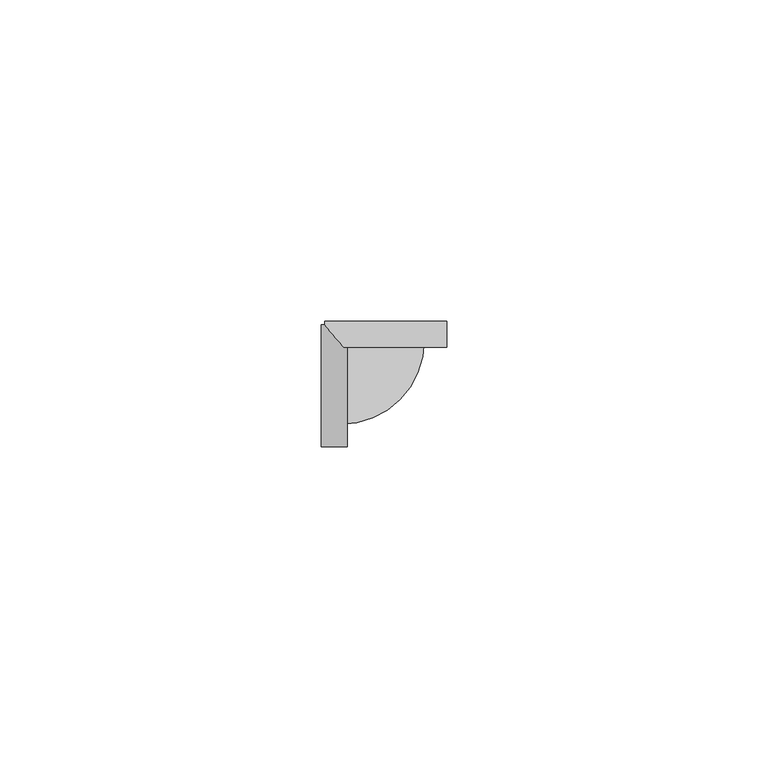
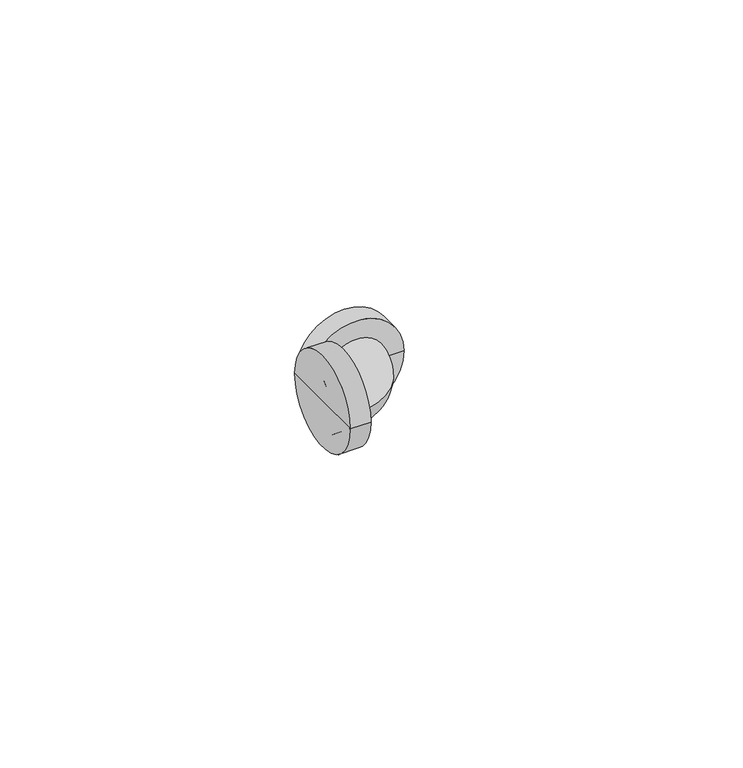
"""IFC4 building model written with IfcOpenShell, lengths in millimetres: pipe fitting geometry, KAN-therm Push kolano mosiężne : KAN-therm Push kolano mosiężne."""

from ifc_helpers import new_model, si_unit, point, frame, origin, place, context, project, spatial, circle_curve, ellipse_curve, trimmed, source, transform, mapped, element, save
from ifc_brep_helpers import plane_surface, cylinder_surface, revolved_surface, advanced_brep


def pipe_fitting_e0515772(model_context):
    return source(origin(), model_context, "Body", "AdvancedBrep", [
        advanced_brep(
        [(0.0, 6.0, 0.0), (-9.5, 6.0, 0.0), (9.5, 6.0, 0.0), (9.5, 10.0, 0.0), (-9.5, 10.0, 0.0), (0.0, 10.0, 0.0)],
        [
            (0, 1),
            (1, 2, circle_curve(frame((0.0, 6.0, 0.0), z_axis=(0.0, -1.0, 0.0), x_axis=(-1.0, 0.0, 0.0)), 9.5)),
            (2, 0),
            (2, 1, circle_curve(frame((0.0, 6.0, 0.0), z_axis=(0.0, -1.0, 0.0), x_axis=(-1.0, 0.0, 0.0)), 9.5)),
            (3, 4, circle_curve(frame((0.0, 10.0, 0.0), z_axis=(0.0, 1.0, 0.0), x_axis=(-1.0, 0.0, 0.0)), 9.5)),
            (4, 5),
            (5, 3),
            (4, 3, circle_curve(frame((0.0, 10.0, 0.0), z_axis=(0.0, 1.0, 0.0), x_axis=(-1.0, 0.0, 0.0)), 9.5)),
            (1, 4),
            (3, 2),
        ],
        [
            plane_surface(frame((0.0, 6.0, 0.0), z_axis=(0.0, -1.0, 0.0), x_axis=(-1.0, 0.0, 0.0))),
            plane_surface(frame((0.0, 10.0, 0.0), z_axis=(0.0, 1.0, 0.0), x_axis=(-1.0, 0.0, 0.0))),
            cylinder_surface(frame((0.0, 1987.0, 0.0), z_axis=(0.0, -1.0, 0.0), x_axis=(-1.0, 0.0, 0.0)), 9.5),
        ],
        [
            (0, [[1, 2, 3]]),
            (0, [[-3, 4, -1]]),
            (1, [[5, 6, 7]]),
            (1, [[8, -7, -6]]),
            (2, [[-2, 9, -5, 10]]),
            (2, [[-4, -10, -8, -9]]),
        ],
    ),
        advanced_brep(
        [(-10.0, -9.5, 0.0), (-10.0, 9.5, 0.0), (-6.0, 9.5, 0.0), (-6.0, -9.5, 0.0), (-10.0, 0.0, 0.0), (-6.0, 0.0, 0.0)],
        [
            (0, 1, circle_curve(frame((-10.0, 0.0, 0.0), z_axis=(1.0, 0.0, 0.0), x_axis=(0.0, 1.0, 0.0)), 9.5)),
            (1, 2),
            (2, 3, circle_curve(frame((-6.0, 0.0, 0.0), z_axis=(-1.0, 0.0, 0.0), x_axis=(0.0, 1.0, 0.0)), 9.5)),
            (3, 0),
            (1, 0, circle_curve(frame((-10.0, 0.0, 0.0), z_axis=(1.0, 0.0, 0.0), x_axis=(0.0, 1.0, 0.0)), 9.5)),
            (3, 2, circle_curve(frame((-6.0, 0.0, 0.0), z_axis=(-1.0, 0.0, 0.0), x_axis=(0.0, 1.0, 0.0)), 9.5)),
            (4, 1),
            (0, 4),
            (2, 5),
            (5, 3),
        ],
        [
            cylinder_surface(frame((2000.0, 0.0, 0.0), z_axis=(-1.0, 0.0, 0.0), x_axis=(0.0, 1.0, 0.0)), 9.5),
            plane_surface(frame((-10.0, 0.0, 0.0), z_axis=(-1.0, 0.0, 0.0), x_axis=(0.0, 1.0, 0.0))),
            plane_surface(frame((-6.0, 0.0, 0.0), z_axis=(1.0, 0.0, 0.0), x_axis=(0.0, 1.0, 0.0))),
        ],
        [
            (0, [[1, 2, 3, 4]]),
            (0, [[5, -4, 6, -2]]),
            (1, [[7, -1, 8]]),
            (1, [[-8, -5, -7]]),
            (2, [[-3, 9, 10]]),
            (2, [[-6, -10, -9]]),
        ],
    ),
        advanced_brep(
        [(-6.0, 10.0, 0.0), (6.0, 10.0, 0.0), (-10.0, 6.0, 0.0), (-10.0, -6.0, 0.0), (-7.0, -6.0, 0.0), (-7.0, 6.0, 0.0), (-6.0, 7.0, 0.0), (6.0, 7.0, 0.0)],
        [
            (0, 1, circle_curve(frame((0.0, 10.0, 0.0), z_axis=(0.0, 1.0, 0.0), x_axis=(1.0, 0.0, 0.0)), 6.0)),
            (1, 0, circle_curve(frame((0.0, 10.0, 0.0), z_axis=(0.0, 1.0, 0.0), x_axis=(1.0, 0.0, 0.0)), 6.0)),
            (2, 3, circle_curve(frame((-10.0, 0.0, 0.0), z_axis=(-1.0, 0.0, 0.0), x_axis=(0.0, -1.0, 0.0)), 6.0)),
            (3, 2, circle_curve(frame((-10.0, 0.0, 0.0), z_axis=(-1.0, 0.0, 0.0), x_axis=(0.0, -1.0, 0.0)), 6.0)),
            (4, 5, circle_curve(frame((-7.0, 0.0, 0.0), z_axis=(-1.0, 0.0, 0.0), x_axis=(0.0, -1.0, 0.0)), 6.0)),
            (5, 2),
            (3, 4),
            (5, 4, circle_curve(frame((-7.0, 0.0, 0.0), z_axis=(-1.0, 0.0, 0.0), x_axis=(0.0, -1.0, 0.0)), 6.0)),
            (0, 6),
            (6, 7, circle_curve(frame((0.0, 7.0, 0.0), z_axis=(0.0, 1.0, 0.0), x_axis=(1.0, 0.0, 0.0)), 6.0)),
            (7, 1),
            (7, 6, circle_curve(frame((0.0, 7.0, 0.0), z_axis=(0.0, 1.0, 0.0), x_axis=(1.0, 0.0, 0.0)), 6.0)),
            (4, 7, circle_curve(frame((-7.0, 7.0, 0.0), z_axis=(0.0, 0.0, 1.0), x_axis=(1.0, 0.0, 0.0)), 13.0)),
            (6, 5, circle_curve(frame((-7.0, 7.0, 0.0), z_axis=(0.0, 0.0, -1.0), x_axis=(1.0, 0.0, 0.0)), 1.0)),
        ],
        [
            plane_surface(frame((0.0, 10.0, 0.0), z_axis=(0.0, 1.0, 0.0), x_axis=(0.0, 0.0, 1.0))),
            plane_surface(frame((-10.0, 0.0, 0.0), z_axis=(-1.0, 0.0, 0.0), x_axis=(0.0, 0.0, 1.0))),
            cylinder_surface(frame((-7.0, 0.0, 0.0), z_axis=(1.0, 0.0, 0.0), x_axis=(0.0, -1.0, 0.0)), 6.0),
            cylinder_surface(frame((0.0, 10.0, 0.0), z_axis=(0.0, 1.0, 0.0), x_axis=(1.0, 0.0, 0.0)), 6.0),
            revolved_surface(trimmed(ellipse_curve(frame((0.0, 7.0, 0.0), z_axis=(0.0, 1.0, 0.0), x_axis=(1.0, 0.0, 0.0)), 6.0, 6.0), [point((-6.0, 7.0, 0.0))], [point((6.0, 7.0, 0.0))], True, "CARTESIAN"), (-7.0, 7.0, 0.0), (0.0, 0.0, -1.0)),
            revolved_surface(trimmed(ellipse_curve(frame((0.0, 7.0, 0.0), z_axis=(0.0, 1.0, 0.0), x_axis=(1.0, 0.0, 0.0)), 6.0, 6.0), [point((6.0, 7.0, 0.0))], [point((-6.0, 7.0, 0.0))], True, "CARTESIAN"), (-7.0, 7.0, 0.0), (0.0, 0.0, -1.0)),
        ],
        [
            (0, [[1, 2]]),
            (1, [[3, 4]]),
            (2, [[5, 6, -4, 7]]),
            (2, [[8, -7, -3, -6]]),
            (3, [[-1, 9, 10, 11]]),
            (3, [[-2, -11, 12, -9]]),
            (4, [[13, -10, 14, -5]]),
            (5, [[-14, -12, -13, -8]]),
        ],
    ),
    ])


if __name__ == "__main__":
    model = new_model("IFC4")
    model_context = context("Model", 3, world=origin())
    ifc_project = project(units=[si_unit("LENGTHUNIT", "METRE", prefix="MILLI")], contexts=[model_context])
    site = spatial("IfcSite", under=ifc_project)
    building = spatial("IfcBuilding", under=site)
    placement = place(None, origin())
    pipe_fitting_shape = pipe_fitting_e0515772(model_context)
    element("IfcPipeFitting", 1, ObjectType="KAN-therm Push kolano mosiężne : KAN-therm Push kolano mosiężne", at=placement, inside=building, context=model_context, shape_type="MappedRepresentation", body=[
        mapped(pipe_fitting_shape, transform((0.0, 0.0, 0.0), x_axis=(1.0, 0.0, 0.0), y_axis=(0.0, 1.0, 0.0), z_axis=(0.0, 0.0, 1.0))),
    ])
    save(model, "model.ifc")
